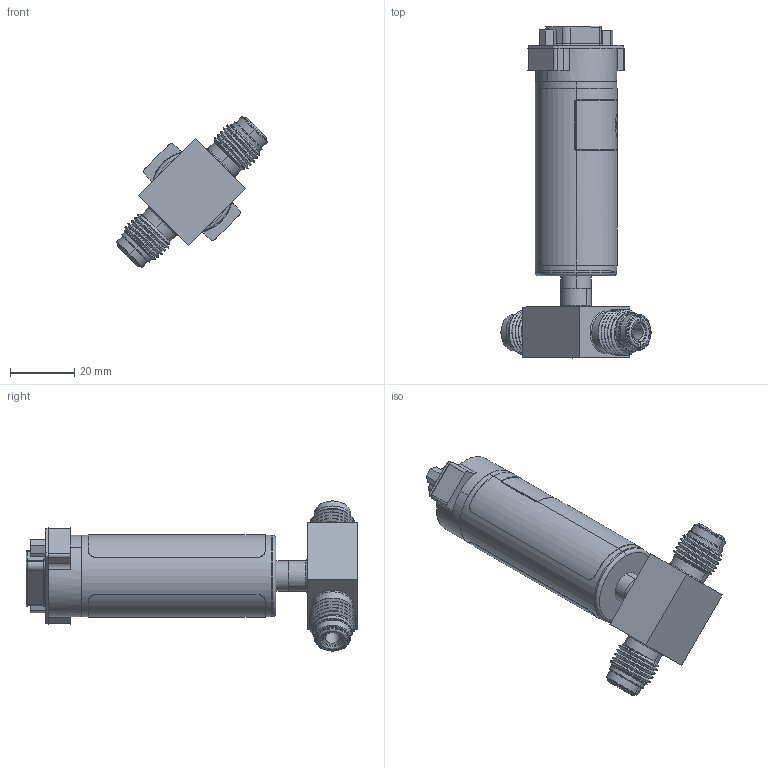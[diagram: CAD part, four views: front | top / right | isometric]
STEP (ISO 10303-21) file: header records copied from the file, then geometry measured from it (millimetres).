
FILE_DESCRIPTION (( 'STEP AP214' ), '1' );
FILE_NAME ('GSF-XXXXXX-D-XXX-VM.STEP', '2025-06-18T18:28:50', ( '' ), ( '' ), 'SwSTEP 2.0', 'SolidWorks 2023', '' );
FILE_SCHEMA (( 'AUTOMOTIVE_DESIGN' ));
Length unit declared in the file: inch
Products named in the file (4): 333125_A333125004; GSx Body_Integrated Connector; GS D; GSF-XXXXXX-D-XXX-VM
Assembly tree (3 placements, depth 2):
  GSF-XXXXXX-D-XXX-VM
    GSx Body_Integrated Connector
    GS D
    333125_A333125004
Bounding box: 46.82 x 103.49 x 46.82 mm (x, y, z)
Volume: 25055.4 mm3; surface area: 19936.5 mm2
Topology: 6 solids, 8 shells, 449 faces, 1119 edges, 691 vertices
Faces by surface type: cylinder 169, plane 108, torus 52, cone 46, bspline 44, sphere 30
Entity records: 18554 total; most frequent: CARTESIAN_POINT 8258, DIRECTION 2134, ORIENTED_EDGE 2110, EDGE_CURVE 1055, AXIS2_PLACEMENT_3D 879, VERTEX_POINT 661, EDGE_LOOP 504, CIRCLE 468
